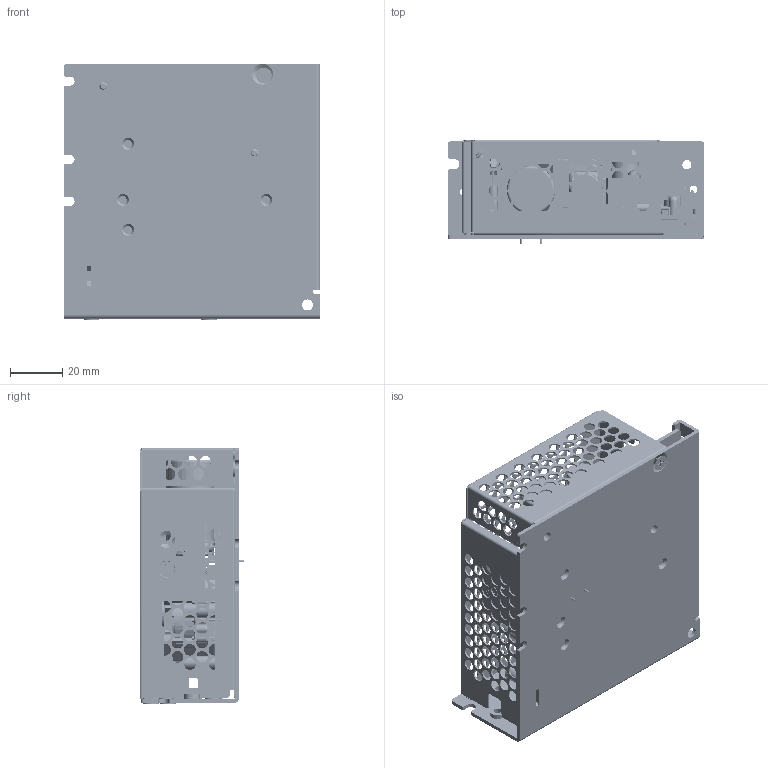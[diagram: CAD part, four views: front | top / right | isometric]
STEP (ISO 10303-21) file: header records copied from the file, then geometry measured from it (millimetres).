
FILE_DESCRIPTION((''),'2;1');
FILE_NAME('NEW_50W_ASM','2014-08-11T',('LEON.YEH'),(''),'PRO/ENGINEER BY PARAMETRIC TECHNOLOGY CORPORATION, 2010280','PRO/ENGINEER BY PARAMETRIC TECHNOLOGY CORPORATION, 2010280','');
FILE_SCHEMA(('CONFIG_CONTROL_DESIGN'));
Products named in the file (36): 15V_50W_PWB; CON2_BODY; CON3_BODY; LED_HOLDER; VR1_; LEG1_; VR_LEG__ASM; 3103000500_FLAT_L5_1; HSK; HSK_PIN1; HSK_PIN2; HSK_ASM_ASM; 242017601306_Q1; 3105325100-L6; 3105320100-L8; 3110150400__W___ANY; DIODE_RESET__W___ANY; 200111620071_BD1; 2875187900_FL1; 0910800216_NTC1; F1; NEW_COVER; 330_CHASSIS_15V; STUD_6_32_L7_; 00; CHASSIS_ASM_15V_ASM; 50W_C1; CY1; C7; INSULATOR; CORE-RM10_1; 3172980001_17; 3132023800_1; ASSY-RM10-1205_ASM_6_ASM; ASSY-RM10-082312_ASM; NEW_50W_ASM
Assembly tree (49 placements, depth 4):
  NEW_50W_ASM
    15V_50W_PWB
    CON2_BODY
    CON3_BODY
    LED_HOLDER
    VR_LEG__ASM
      VR1_
      LEG1_  x3
    3103000500_FLAT_L5_1  x2
    HSK_ASM_ASM
      HSK
      HSK_PIN1
      HSK_PIN2
    242017601306_Q1  x2
    3105325100-L6  x2
    3105320100-L8  x2
    3110150400__W___ANY  x2
    DIODE_RESET__W___ANY
    200111620071_BD1
    2875187900_FL1
    0910800216_NTC1
    F1
    NEW_COVER
    CHASSIS_ASM_15V_ASM
      330_CHASSIS_15V
      STUD_6_32_L7_  x2
      00  x2
    50W_C1
    CY1  x5
    C7
    INSULATOR
    ASSY-RM10-082312_ASM
      ASSY-RM10-1205_ASM_6_ASM
        CORE-RM10_1  x2
        3172980001_17
        3132023800_1
Bounding box: 98 x 40.15 x 98 mm (x, y, z)
Volume: 81163.1 mm3; surface area: 115429.8 mm2
Topology: 57 solids, 57 shells, 4014 faces, 9778 edges, 5897 vertices
Faces by surface type: cylinder 1907, plane 1195, torus 662, bspline 110, cone 86, sphere 34, revolution 20
Entity records: 119607 total; most frequent: CARTESIAN_POINT 32609, DIRECTION 18761, ORIENTED_EDGE 17502, EDGE_CURVE 8751, AXIS2_PLACEMENT_3D 7507, VERTEX_POINT 5296, EDGE_LOOP 4427, CIRCLE 3882
